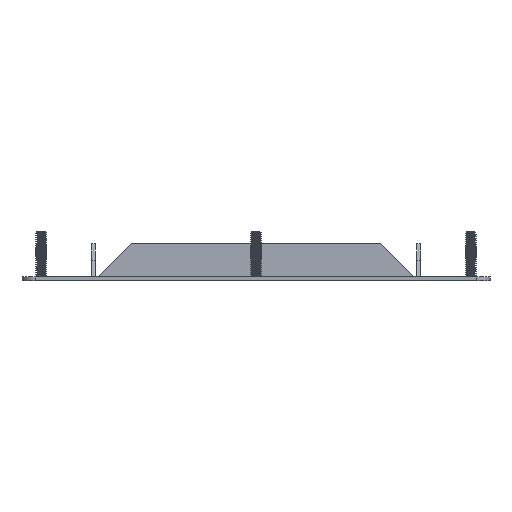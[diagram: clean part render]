
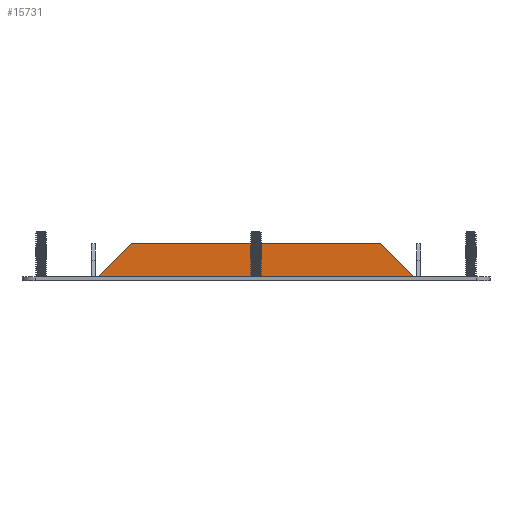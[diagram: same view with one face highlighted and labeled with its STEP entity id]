
A CAD part, left-side view. The second image highlights one B-rep face of the part: STEP entity #15731.
In plain terms, the highlighted planar face has unit normal (-1, 0, 0).
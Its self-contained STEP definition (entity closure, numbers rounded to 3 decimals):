
#384=LINE('',#25054,#1022);
#391=LINE('',#25071,#1029);
#395=LINE('',#25077,#1033);
#396=LINE('',#25080,#1034);
#1022=VECTOR('',#17475,1000.);
#1029=VECTOR('',#17488,1000.);
#1033=VECTOR('',#17496,1000.);
#1034=VECTOR('',#17501,1000.);
#1577=PLANE('',#16446);
#2056=ORIENTED_EDGE('',*,*,#5658,.T.);
#2057=ORIENTED_EDGE('',*,*,#5653,.F.);
#2058=ORIENTED_EDGE('',*,*,#5657,.F.);
#2059=ORIENTED_EDGE('',*,*,#5645,.T.);
#5645=EDGE_CURVE('',#7429,#7428,#384,.T.);
#5653=EDGE_CURVE('',#7435,#7433,#391,.T.);
#5657=EDGE_CURVE('',#7429,#7435,#395,.T.);
#5658=EDGE_CURVE('',#7428,#7433,#396,.T.);
#7428=VERTEX_POINT('',#25051);
#7429=VERTEX_POINT('',#25055);
#7433=VERTEX_POINT('',#25064);
#7435=VERTEX_POINT('',#25070);
#9451=EDGE_LOOP('',(#2056,#2057,#2058,#2059));
#10107=FACE_BOUND('',#9451,.T.);
#15731=ADVANCED_FACE('',(#10107),#1577,.F.);
#16446=AXIS2_PLACEMENT_3D('',#25079,#17499,#17500);
#17475=DIRECTION('',(0.,0.707,-0.707));
#17488=DIRECTION('',(0.,-0.707,-0.707));
#17496=DIRECTION('',(0.,-1.,0.));
#17499=DIRECTION('',(1.,0.,0.));
#17500=DIRECTION('',(0.,0.,-1.));
#17501=DIRECTION('',(0.,-1.,0.));
#25051=CARTESIAN_POINT('',(-91.186,60.452,0.));
#25054=CARTESIAN_POINT('',(-91.186,17.177,43.275));
#25055=CARTESIAN_POINT('',(-91.186,47.752,12.7));
#25064=CARTESIAN_POINT('',(-91.186,-60.452,0.));
#25070=CARTESIAN_POINT('',(-91.186,-47.752,12.7));
#25071=CARTESIAN_POINT('',(-91.186,-17.177,43.275));
#25077=CARTESIAN_POINT('',(-91.186,0.,12.7));
#25079=CARTESIAN_POINT('',(-91.186,0.,5.588));
#25080=CARTESIAN_POINT('',(-91.186,0.,0.));
